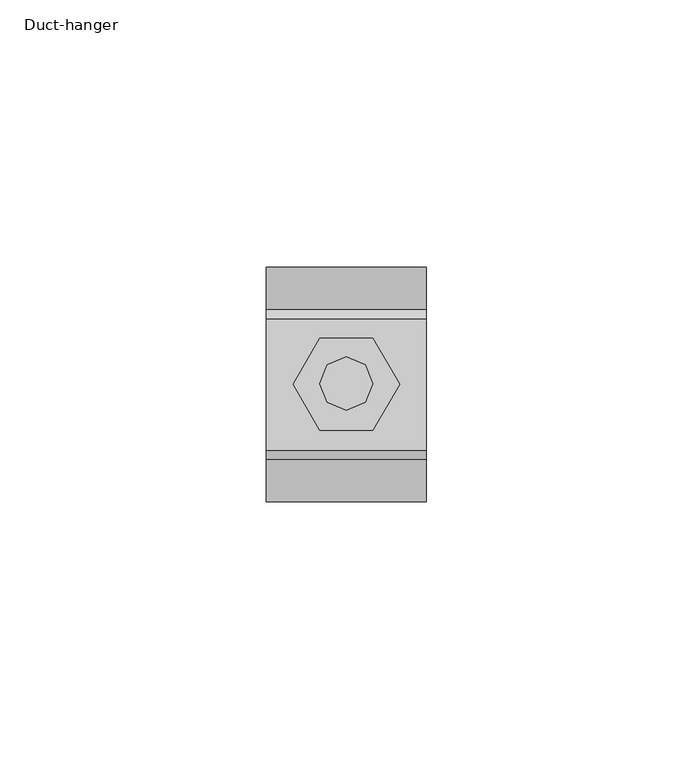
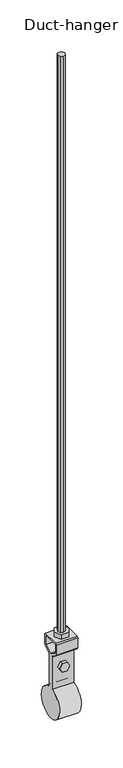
"""IFC4 building model written with IfcOpenShell, lengths in millimetres: proxy geometry, Duct-hanger : Φ44."""

from ifc_helpers import new_model, si_unit, point, frame, frame_2d, origin, place, context, project, spatial, polyline, circle_curve, trimmed, segment, composite_curve, outline, extrude, source, transform, mapped, element, save


def duct_hanger_4aceb5c8(model_context):
    return source(origin(), model_context, "Body", "SweptSolid", [
        extrude(outline(polyline([(3.5351563, 3.5351563), (5.0003052, 0.0), (3.5351563, -3.5351563), (0.0, -5.0), (-3.5354614, -3.5351563), (-5.0, 0.0), (-3.5354614, 3.5351563), (0.0, 5.0), (3.5351563, 3.5351563)])), frame((0.0, 0.0, -855.0), z_axis=(0.0, 0.0, 1.0), x_axis=(1.0, 0.0, 0.0)), (0.0, 0.0, 1.0), 855.0),
        extrude(outline(polyline([(5.0, 8.659668), (10.0, 0.0), (5.0, -8.659668), (-5.0, -8.659668), (-10.0, 0.0), (-5.0, 8.659668), (5.0, 8.659668)])), frame((0.0, 0.0, -855.0), z_axis=(0.0, 0.0, 1.0), x_axis=(1.0, 0.0, 0.0)), (0.0, 0.0, 1.0), 6.6101074),
        extrude(outline(polyline([(-892.0153297, -3.5931396), (-898.2387794, -7.1862793), (-904.4622291, -3.5931396), (-904.4622291, 3.5931396), (-898.2387794, 7.1862793), (-892.0153297, 3.5931396), (-892.0153297, -3.5931396)])), frame((0.0, -8.2446289, 0.0), z_axis=(0.0, 1.0, 0.0), x_axis=(0.0, 0.0, 1.0)), (0.0, 0.0, 1.0), 16.4892578),
        extrude(outline(composite_curve([segment(polyline([(14.0234375, -856.6687012), (14.0234375, -871.3183594), (12.8845215, -873.3847046), (4.6337891, -878.5925293), (3.494873, -880.6594849), (3.494873, -928.2387794)]), True, "CONTINUOUS"), segment(trimmed(circle_curve(frame_2d((0.0, -949.9594116)), 22.0), [point((3.494873, -928.2387794))], [point((-3.494873, -928.2387794))], False, "CARTESIAN"), True, "CONTINUOUS"), segment(polyline([(-3.494873, -928.2387794), (-3.494873, -880.6594849), (-4.6337891, -878.5925293), (-12.8845215, -873.3847046), (-14.0234375, -871.3183594), (-14.0234375, -856.6687012), (-12.3547363, -855.0), (12.3547363, -855.0), (14.0234375, -856.6687012)]), True, "CONTINUOUS")], self_intersect=False), holes=[polyline([(0.0, -877.2663763), (10.7531738, -870.4797363), (10.7531738, -858.253479), (-10.7531738, -858.253479), (-10.7531738, -870.4797363), (0.0, -877.2663763)])]), frame((-15.0, 0.0, 0.0), z_axis=(1.0, 0.0, 0.0), x_axis=(0.0, 1.0, 0.0)), (0.0, 0.0, 1.0), 30.0),
    ])


if __name__ == "__main__":
    model = new_model("IFC4")
    model_context = context("Model", 3, world=origin())
    ifc_project = project(units=[si_unit("LENGTHUNIT", "METRE", prefix="MILLI")], contexts=[model_context])
    site = spatial("IfcSite", under=ifc_project)
    building = spatial("IfcBuilding", under=site)
    placement = place(None, origin())
    duct_hanger_shape = duct_hanger_4aceb5c8(model_context)
    element("IfcBuildingElementProxy", 1, Name="Duct-hanger : Φ44", ObjectType="Duct-hanger : Φ44", at=placement, inside=building, context=model_context, shape_type="MappedRepresentation", body=[
        mapped(duct_hanger_shape, transform((0.0, 0.0, 0.0), x_axis=(1.0, 0.0, 0.0), y_axis=(0.0, 1.0, 0.0), z_axis=(0.0, 0.0, 1.0))),
    ])
    save(model, "model.ifc")
